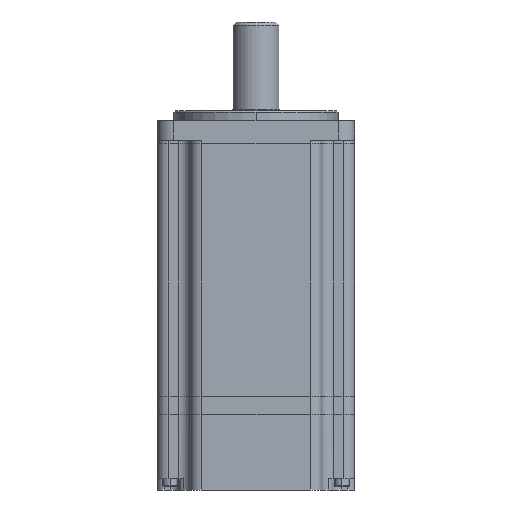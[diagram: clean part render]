
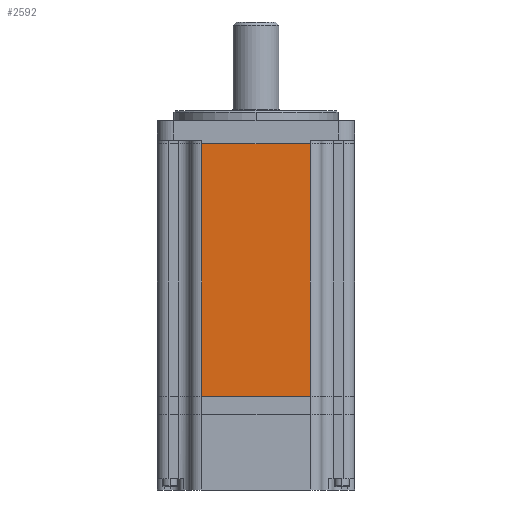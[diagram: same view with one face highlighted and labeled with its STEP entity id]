
A CAD part, left-side view. The second image highlights one B-rep face of the part: STEP entity #2592.
In plain terms, the highlighted planar face has unit normal (-1, 0, 0).
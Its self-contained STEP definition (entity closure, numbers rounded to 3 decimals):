
#714 = EDGE_CURVE ( 'NONE', #12805, #48027, #10823, .T. ) ;
#2305 = CARTESIAN_POINT ( 'NONE',  ( -30., -20., -77. ) ) ;
#2592 = ADVANCED_FACE ( 'NONE', ( #8657 ), #18756, .F. ) ;
#3397 = CARTESIAN_POINT ( 'NONE',  ( -30., 16.5, -77. ) ) ;
#4126 = CARTESIAN_POINT ( 'NONE',  ( -30., -16.5, -77. ) ) ;
#4937 = CARTESIAN_POINT ( 'NONE',  ( -30., -16.5, -77. ) ) ;
#6462 = DIRECTION ( 'NONE',  ( 1., 0., 0. ) ) ;
#7366 = DIRECTION ( 'NONE',  ( 0., 0., -1. ) ) ;
#7521 = CARTESIAN_POINT ( 'NONE',  ( -30., -16.5, 0. ) ) ;
#8657 = FACE_OUTER_BOUND ( 'NONE', #51039, .T. ) ;
#8751 = EDGE_CURVE ( 'NONE', #23787, #41563, #43537, .T. ) ;
#10823 = LINE ( 'NONE', #4126, #53407 ) ;
#12805 = VERTEX_POINT ( 'NONE', #4937 ) ;
#14203 = AXIS2_PLACEMENT_3D ( 'NONE', #2305, #6462, #35293 ) ;
#14647 = EDGE_CURVE ( 'NONE', #12805, #41563, #20334, .T. ) ;
#18756 = PLANE ( 'NONE',  #14203 ) ;
#20334 = LINE ( 'NONE', #35479, #29982 ) ;
#23787 = VERTEX_POINT ( 'NONE', #45393 ) ;
#25243 = DIRECTION ( 'NONE',  ( 0., 1., 0. ) ) ;
#26907 = VECTOR ( 'NONE', #25243, 1000. ) ;
#29706 = CARTESIAN_POINT ( 'NONE',  ( -30., 16.5, -77. ) ) ;
#29858 = EDGE_CURVE ( 'NONE', #48027, #23787, #48820, .T. ) ;
#29982 = VECTOR ( 'NONE', #43807, 1000. ) ;
#31256 = VECTOR ( 'NONE', #7366, 1000. ) ;
#35293 = DIRECTION ( 'NONE',  ( 0., 0., 1. ) ) ;
#35479 = CARTESIAN_POINT ( 'NONE',  ( -30., -20., -77. ) ) ;
#40808 = ORIENTED_EDGE ( 'NONE', *, *, #29858, .T. ) ;
#41563 = VERTEX_POINT ( 'NONE', #29706 ) ;
#43537 = LINE ( 'NONE', #3397, #31256 ) ;
#43807 = DIRECTION ( 'NONE',  ( 0., 1., 0. ) ) ;
#45393 = CARTESIAN_POINT ( 'NONE',  ( -30., 16.5, 0. ) ) ;
#46269 = ORIENTED_EDGE ( 'NONE', *, *, #714, .T. ) ;
#48027 = VERTEX_POINT ( 'NONE', #7521 ) ;
#48820 = LINE ( 'NONE', #50118, #26907 ) ;
#50118 = CARTESIAN_POINT ( 'NONE',  ( -30., -20., 0. ) ) ;
#51039 = EDGE_LOOP ( 'NONE', ( #52076, #46269, #40808, #53365 ) ) ;
#52076 = ORIENTED_EDGE ( 'NONE', *, *, #14647, .F. ) ;
#53365 = ORIENTED_EDGE ( 'NONE', *, *, #8751, .T. ) ;
#53407 = VECTOR ( 'NONE', #53556, 1000. ) ;
#53556 = DIRECTION ( 'NONE',  ( 0., 0., 1. ) ) ;
